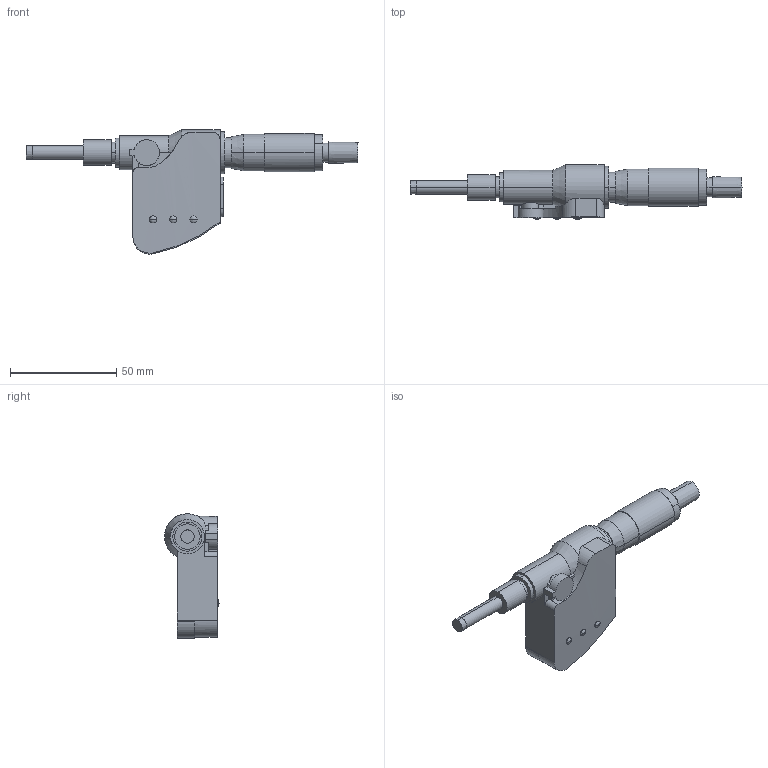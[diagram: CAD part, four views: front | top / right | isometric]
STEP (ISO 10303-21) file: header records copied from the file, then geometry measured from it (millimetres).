
FILE_DESCRIPTION(('Creo Elements/Direct Modeling STEP Export'),'2;1');
FILE_NAME('350_MHN125MX(IP65).stp','2020-07-06T11:11:01',(''),(''),'Creo Elements/Direct Modeling STEP processor for AP214 (Solid Model)','Creo Elements/Direct Modeling 18.1H 24-Oct-2015 (C) Parametric Technology GmbH','');
FILE_SCHEMA(('AUTOMOTIVE_DESIGN { 1 0 10303 214 1 1 1 1 }'));
Length unit declared in the file: millimetre
Products named in the file (2): 350-281-30.1
Assembly tree (1 placements, depth 2):
  350-281-30.1
    350-281-30.1
Bounding box: 156 x 25.78 x 58.44 mm (x, y, z)
Volume: 57786.6 mm3; surface area: 13162.7 mm2
Topology: 1 solids, 1 shells, 99 faces, 242 edges, 156 vertices
Faces by surface type: cylinder 50, plane 34, cone 9, sphere 6
Entity records: 3055 total; most frequent: CARTESIAN_POINT 765, ORIENTED_EDGE 472, DIRECTION 452, EDGE_CURVE 236, AXIS2_PLACEMENT_3D 175, VERTEX_POINT 156, EDGE_LOOP 116, VECTOR 102
